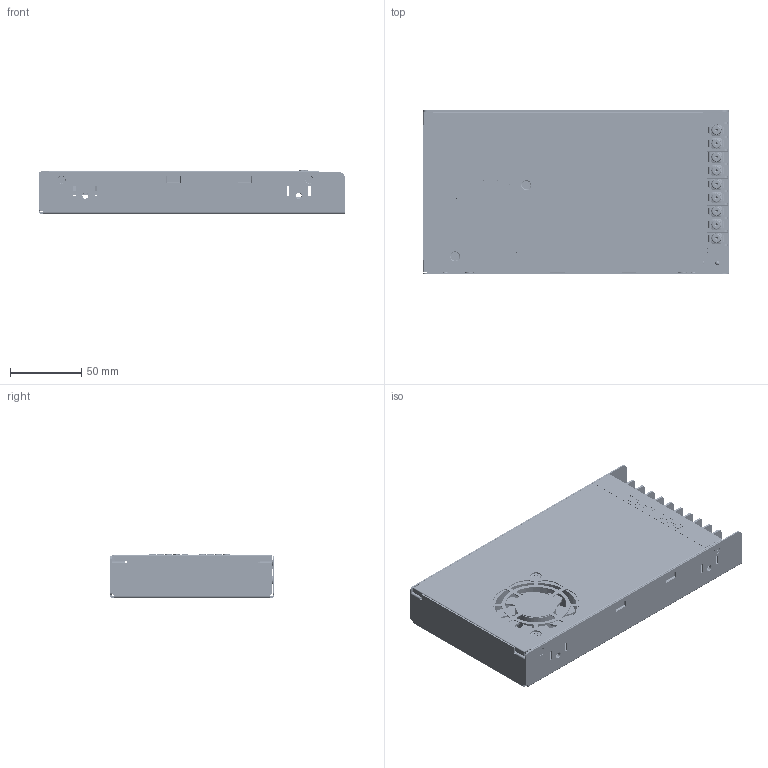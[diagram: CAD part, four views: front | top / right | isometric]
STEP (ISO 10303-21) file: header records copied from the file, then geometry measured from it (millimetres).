
FILE_DESCRIPTION((''),'2;1');
FILE_NAME('PMT-XXV350W2BX_3D_ASM','2020-01-08T',('CAREY.WENG'),(''),'CREO PARAMETRIC BY PTC INC, 2014190','CREO PARAMETRIC BY PTC INC, 2014190','');
FILE_SCHEMA(('CONFIG_CONTROL_DESIGN'));
Products named in the file (33): CHASSIS_63; COVER-00_50; LAYOUT_20190503_2; CHASSIS-STANDOFF_7; INSULATOR_324_11; WARNING_LABEL_3; PRT0001_1; LED_2306007105_1; F1_0805A41102_2; LABEL_SPEC_6; A2541WX0-1X2PA-6T_1_1; BS064116_6_1; A2541WV0-1EX2PA-6T_ASM_7_ASM_1_ASM; A2541WV0-1EX2PA-6T_ASM_1_ASM; VR131_0604202005_1; SCREW_3105469000_3; SCREW_3109035000_1; TAPE_15; SW1_3000059426_1; 3105325100-L6_1; FAN_2_1; FAN_2_2; FAN_2_3; FAN_2_4; FAN_2_5; FAN_2_6; FAN_2_7; FAN_2_8; FAN_2_9; FAN_2_10; FAN_2_ASM; PMT-1224V350W2BA_ASM_53_ASM; PMT-XXV350W2BX_3D_ASM
Assembly tree (43 placements, depth 5):
  PMT-XXV350W2BX_3D_ASM
    PMT-1224V350W2BA_ASM_53_ASM
      CHASSIS_63
      COVER-00_50
      LAYOUT_20190503_2
      CHASSIS-STANDOFF_7  x5
      INSULATOR_324_11
      WARNING_LABEL_3
      PRT0001_1  x2
      LED_2306007105_1
      F1_0805A41102_2
      LABEL_SPEC_6
      A2541WV0-1EX2PA-6T_ASM_1_ASM
        A2541WV0-1EX2PA-6T_ASM_7_ASM_1_ASM
          A2541WX0-1X2PA-6T_1_1
          BS064116_6_1  x2
      VR131_0604202005_1
      SCREW_3105469000_3  x4
      SCREW_3109035000_1  x2
      TAPE_15
      SW1_3000059426_1
      3105325100-L6_1  x2
      FAN_2_ASM
        FAN_2_1
        FAN_2_2
        FAN_2_3
        FAN_2_4
        FAN_2_5
        FAN_2_6
        FAN_2_7
        FAN_2_8
        FAN_2_9
        FAN_2_10
Bounding box: 215 x 115.3 x 30.39 mm (x, y, z)
Volume: 144740.3 mm3; surface area: 298845.7 mm2
Topology: 39 solids, 39 shells, 7482 faces, 23914 edges, 15861 vertices
Faces by surface type: plane 4799, cylinder 1434, bspline 915, torus 192, cone 136, extrusion 4, sphere 2
Entity records: 206820 total; most frequent: CARTESIAN_POINT 88576, ORIENTED_EDGE 27432, DIRECTION 20929, EDGE_CURVE 13716, VERTEX_POINT 9078, VECTOR 8597, LINE 8596, AXIS2_PLACEMENT_3D 6166
